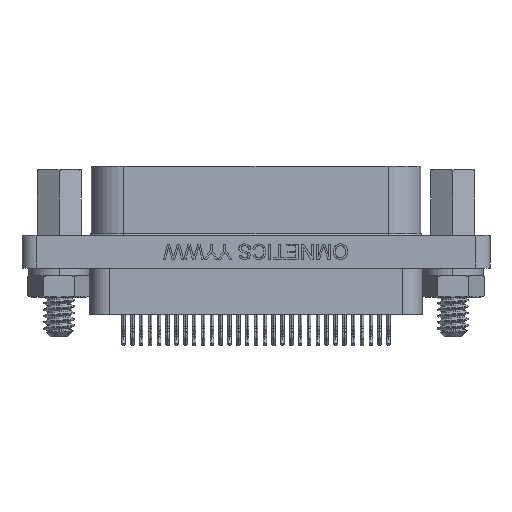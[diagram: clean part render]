
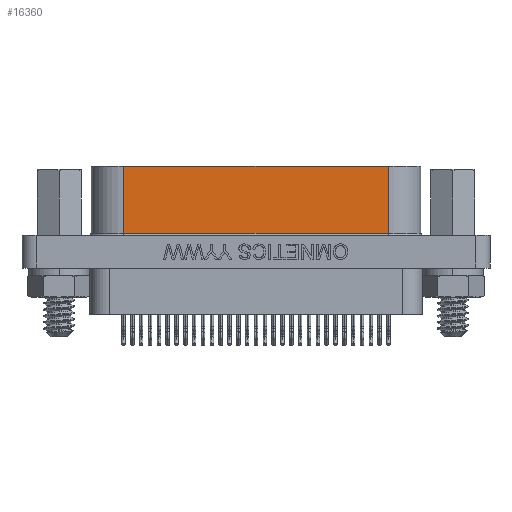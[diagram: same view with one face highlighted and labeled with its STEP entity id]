
A CAD part, front view. The second image highlights one B-rep face of the part: STEP entity #16360.
In plain terms, the highlighted planar face has unit normal (0, -1, 0).
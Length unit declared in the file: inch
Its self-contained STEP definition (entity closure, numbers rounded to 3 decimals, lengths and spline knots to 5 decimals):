
#1209 = EDGE_CURVE ( 'NONE', #56197, #29071, #42349, .T. ) ;
#2511 = CARTESIAN_POINT ( 'NONE',  ( -0.6225, -0.1176, 0.235 ) ) ;
#2576 = VECTOR ( 'NONE', #38355, 39.37008 ) ;
#6265 = VECTOR ( 'NONE', #38254, 39.37008 ) ;
#6520 = CARTESIAN_POINT ( 'NONE',  ( -0.375, -0.1176, 0.235 ) ) ;
#7341 = FACE_OUTER_BOUND ( 'NONE', #8410, .T. ) ;
#8410 = EDGE_LOOP ( 'NONE', ( #22540, #44545, #49226, #29860 ) ) ;
#8868 = VECTOR ( 'NONE', #53450, 39.37008 ) ;
#10181 = VERTEX_POINT ( 'NONE', #16156 ) ;
#13429 = EDGE_CURVE ( 'NONE', #56197, #50827, #52532, .T. ) ;
#16156 = CARTESIAN_POINT ( 'NONE',  ( 0.375, -0.1176, 0.045 ) ) ;
#16360 = ADVANCED_FACE ( 'NONE', ( #7341 ), #46535, .F. ) ;
#17337 = DIRECTION ( 'NONE',  ( 0., 0., -1. ) ) ;
#18376 = LINE ( 'NONE', #52734, #6265 ) ;
#18446 = CARTESIAN_POINT ( 'NONE',  ( 0.375, -0.1176, 0.045 ) ) ;
#22540 = ORIENTED_EDGE ( 'NONE', *, *, #1209, .T. ) ;
#29071 = VERTEX_POINT ( 'NONE', #43286 ) ;
#29607 = EDGE_CURVE ( 'NONE', #29071, #10181, #33515, .T. ) ;
#29860 = ORIENTED_EDGE ( 'NONE', *, *, #13429, .F. ) ;
#32608 = CARTESIAN_POINT ( 'NONE',  ( -0.6225, -0.1176, 0.235 ) ) ;
#33515 = LINE ( 'NONE', #18446, #8868 ) ;
#35307 = EDGE_CURVE ( 'NONE', #50827, #10181, #18376, .T. ) ;
#36524 = AXIS2_PLACEMENT_3D ( 'NONE', #2511, #40663, #44517 ) ;
#38254 = DIRECTION ( 'NONE',  ( 0., 0., -1. ) ) ;
#38355 = DIRECTION ( 'NONE',  ( 1., 0., 0. ) ) ;
#40663 = DIRECTION ( 'NONE',  ( 0., 1., 0. ) ) ;
#42349 = LINE ( 'NONE', #61058, #49796 ) ;
#43286 = CARTESIAN_POINT ( 'NONE',  ( -0.375, -0.1176, 0.045 ) ) ;
#44313 = CARTESIAN_POINT ( 'NONE',  ( 0.375, -0.1176, 0.235 ) ) ;
#44517 = DIRECTION ( 'NONE',  ( 0., 0., 1. ) ) ;
#44545 = ORIENTED_EDGE ( 'NONE', *, *, #29607, .T. ) ;
#46535 = PLANE ( 'NONE',  #36524 ) ;
#49226 = ORIENTED_EDGE ( 'NONE', *, *, #35307, .F. ) ;
#49796 = VECTOR ( 'NONE', #17337, 39.37008 ) ;
#50827 = VERTEX_POINT ( 'NONE', #44313 ) ;
#52532 = LINE ( 'NONE', #32608, #2576 ) ;
#52734 = CARTESIAN_POINT ( 'NONE',  ( 0.375, -0.1176, 0.235 ) ) ;
#53450 = DIRECTION ( 'NONE',  ( 1., 0., 0. ) ) ;
#56197 = VERTEX_POINT ( 'NONE', #6520 ) ;
#61058 = CARTESIAN_POINT ( 'NONE',  ( -0.375, -0.1176, 0.235 ) ) ;
